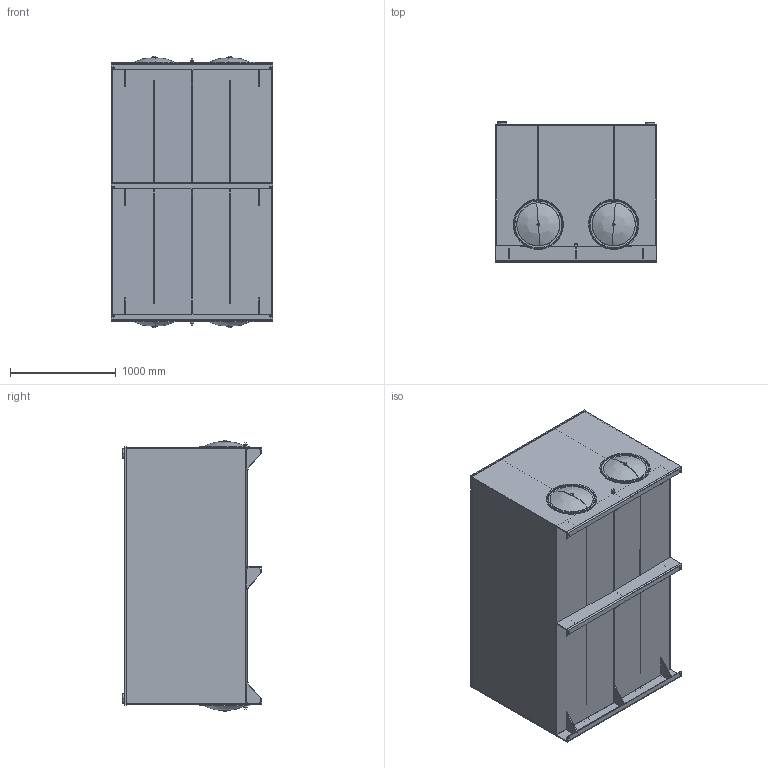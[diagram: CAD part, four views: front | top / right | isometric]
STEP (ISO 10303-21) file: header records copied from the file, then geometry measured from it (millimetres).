
FILE_DESCRIPTION (( 'STEP AP214' ), '1' );
FILE_NAME ('TJ-900.STEP', '2026-04-22T13:51:06', ( '' ), ( '' ), 'SwSTEP 2.0', 'SolidWorks 2026', '' );
FILE_SCHEMA (( 'AUTOMOTIVE_DESIGN' ));
Length unit declared in the file: inch
Products named in the file (19): TJ-900-BFL; TJ-900-BDYB; TJ-900-GST-2; TJ-900-LD; 0.750 NPT HALF COUPLING 3000#; 0.625 - 11 BAFFLE NUT; 0.750 NPT PLUG; FILLER RISER; TJ-900-BDYA; TL-EC-18; TJ-900; CRUSH WASHER; TJ-900-GST-1; 0.625 - 11 HEX BOLT; TJ-900-EB; TJ-900-EA; TJ-900-FS; 18.00 END COVER; 18.00 GASKET
Assembly tree (33 placements, depth 3):
  TJ-900
    TJ-900-BDYB  x2
    TJ-900-BDYA
    TJ-900-EA
    TJ-900-EB
    TJ-900-BFL  x2
    TL-EC-18  x4
      18.00 END COVER
      18.00 GASKET
      CRUSH WASHER
      0.625 - 11 HEX BOLT
      0.625 - 11 BAFFLE NUT
    TJ-900-LD
    TJ-900-FS
    TJ-900-GST-1  x6
    TJ-900-GST-2  x3
    0.750 NPT HALF COUPLING 3000#  x2
    0.750 NPT PLUG  x2
    FILLER RISER  x2
Bounding box: 1524 x 1320.8 x 2560.98 mm (x, y, z)
Volume: 158275458.1 mm3; surface area: 46646866.2 mm2
Topology: 44 solids, 44 shells, 520 faces, 1210 edges, 792 vertices
Faces by surface type: plane 295, cylinder 193, bspline 16, cone 12, torus 4
Entity records: 7940 total; most frequent: DIRECTION 1337, CARTESIAN_POINT 1274, ORIENTED_EDGE 1146, EDGE_CURVE 573, AXIS2_PLACEMENT_3D 493, VERTEX_POINT 370, VECTOR 351, LINE 351
